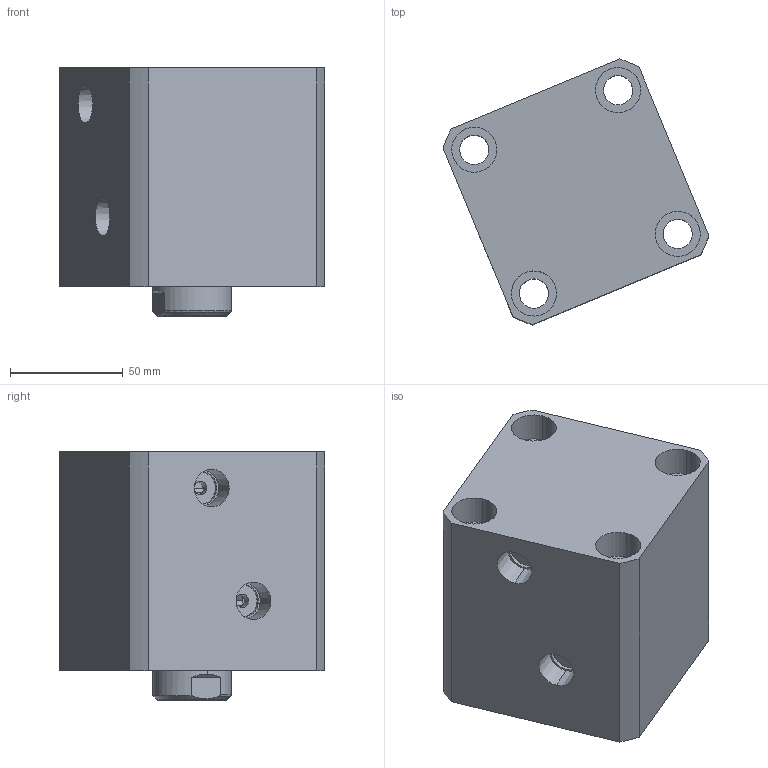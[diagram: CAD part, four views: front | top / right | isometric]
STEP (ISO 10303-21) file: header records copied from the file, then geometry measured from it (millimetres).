
FILE_DESCRIPTION (( 'STEP AP214' ), '1' );
FILE_NAME ('chtb-sd63x30n_asm.STEP', '2018-05-10T01:43:32', ( 'Windows' ), ( 'Microsoft' ), 'SwSTEP 2.0', 'SolidWorks 2015', '' );
FILE_SCHEMA (( 'AUTOMOTIVE_DESIGN' ));
Length unit declared in the file: millimetre
Products named in the file (4): CHTB63X30NHSG; CHTB63X30NBT; CHTB-63QG; chtb-sd63x30n_asm
Assembly tree (3 placements, depth 2):
  chtb-sd63x30n_asm
    CHTB-63QG
    CHTB63X30NBT
    CHTB63X30NHSG
Bounding box: 117.81 x 117.81 x 110 mm (x, y, z)
Volume: 712016.5 mm3; surface area: 127888.4 mm2
Topology: 3 solids, 3 shells, 165 faces, 465 edges, 318 vertices
Faces by surface type: cylinder 101, plane 33, bspline 12, cone 12, torus 7
Entity records: 17616 total; most frequent: CARTESIAN_POINT 13505, ORIENTED_EDGE 918, DIRECTION 719, EDGE_CURVE 459, VERTEX_POINT 318, AXIS2_PLACEMENT_3D 291, EDGE_LOOP 197, FACE_OUTER_BOUND 165
